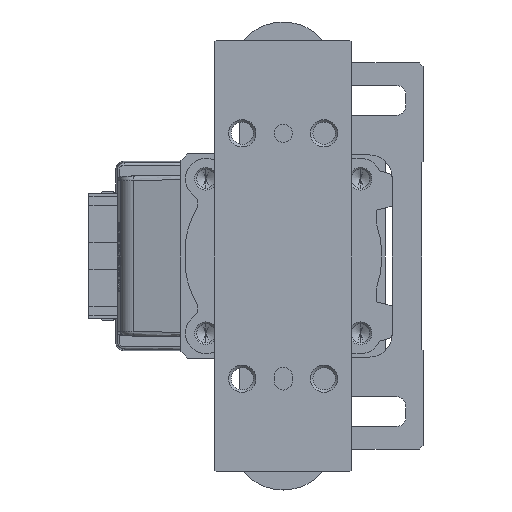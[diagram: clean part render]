
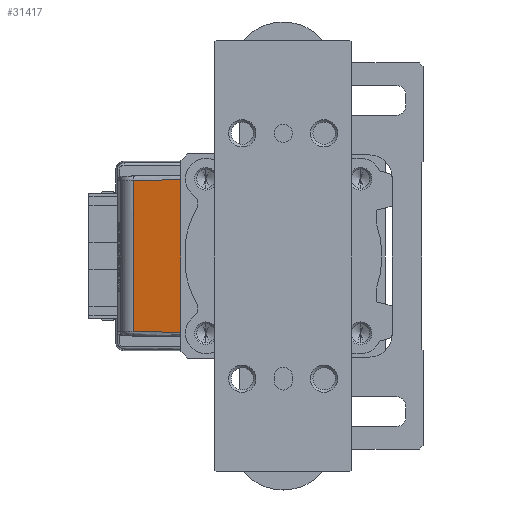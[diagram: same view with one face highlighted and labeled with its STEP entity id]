
A CAD part, left-side view. The second image highlights one B-rep face of the part: STEP entity #31417.
In plain terms, the highlighted planar face has unit normal (-0.985, 0.174, 0) as drawn and (0, 0.174, 0.985) by its records, which use the part's own axes.
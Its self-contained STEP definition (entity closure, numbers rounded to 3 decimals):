
#260 = EDGE_CURVE ( 'NONE', #35667, #23231, #22788, .T. ) ;
#837 = CARTESIAN_POINT ( 'NONE',  ( -16.825, 21., -38.277 ) ) ;
#1685 = CARTESIAN_POINT ( 'NONE',  ( -16.617, 32.922, -40.379 ) ) ;
#4654 = CARTESIAN_POINT ( 'NONE',  ( -17.568, 32.922, -40.379 ) ) ;
#6459 = DIRECTION ( 'NONE',  ( -0.017, 0.985, -0.174 ) ) ;
#7475 = ORIENTED_EDGE ( 'NONE', *, *, #17440, .T. ) ;
#7781 = CARTESIAN_POINT ( 'NONE',  ( 0., 21., -38.277 ) ) ;
#7847 = VERTEX_POINT ( 'NONE', #837 ) ;
#10968 = VERTEX_POINT ( 'NONE', #1685 ) ;
#11557 = DIRECTION ( 'NONE',  ( 0., -0.174, -0.985 ) ) ;
#13101 = VECTOR ( 'NONE', #30338, 1000. ) ;
#13483 = VECTOR ( 'NONE', #14518, 1000. ) ;
#13922 = PLANE ( 'NONE',  #17932 ) ;
#14518 = DIRECTION ( 'NONE',  ( -0.017, -0.985, 0.174 ) ) ;
#16055 = EDGE_LOOP ( 'NONE', ( #7475, #22339, #34056, #23545 ) ) ;
#17440 = EDGE_CURVE ( 'NONE', #23231, #10968, #30859, .T. ) ;
#17932 = AXIS2_PLACEMENT_3D ( 'NONE', #37374, #11557, #33528 ) ;
#22339 = ORIENTED_EDGE ( 'NONE', *, *, #34998, .T. ) ;
#22788 = LINE ( 'NONE', #29651, #34544 ) ;
#23231 = VERTEX_POINT ( 'NONE', #42552 ) ;
#23545 = ORIENTED_EDGE ( 'NONE', *, *, #260, .T. ) ;
#25718 = CARTESIAN_POINT ( 'NONE',  ( 16.825, 21., -38.277 ) ) ;
#27368 = LINE ( 'NONE', #7781, #13101 ) ;
#27852 = DIRECTION ( 'NONE',  ( -1., 0., 0. ) ) ;
#29651 = CARTESIAN_POINT ( 'NONE',  ( 16.617, 32.905, -40.376 ) ) ;
#30338 = DIRECTION ( 'NONE',  ( 1., 0., 0. ) ) ;
#30859 = LINE ( 'NONE', #4654, #36871 ) ;
#31417 = ADVANCED_FACE ( 'NONE', ( #33736 ), #13922, .F. ) ;
#33528 = DIRECTION ( 'NONE',  ( 1., 0., 0. ) ) ;
#33736 = FACE_OUTER_BOUND ( 'NONE', #16055, .T. ) ;
#33915 = LINE ( 'NONE', #37988, #13483 ) ;
#34056 = ORIENTED_EDGE ( 'NONE', *, *, #36663, .T. ) ;
#34544 = VECTOR ( 'NONE', #6459, 1000. ) ;
#34998 = EDGE_CURVE ( 'NONE', #10968, #7847, #33915, .T. ) ;
#35667 = VERTEX_POINT ( 'NONE', #25718 ) ;
#36663 = EDGE_CURVE ( 'NONE', #7847, #35667, #27368, .T. ) ;
#36871 = VECTOR ( 'NONE', #27852, 1000. ) ;
#37374 = CARTESIAN_POINT ( 'NONE',  ( 0., 21.26, -38.323 ) ) ;
#37988 = CARTESIAN_POINT ( 'NONE',  ( -16.825, 20.983, -38.274 ) ) ;
#42552 = CARTESIAN_POINT ( 'NONE',  ( 16.617, 32.922, -40.379 ) ) ;
